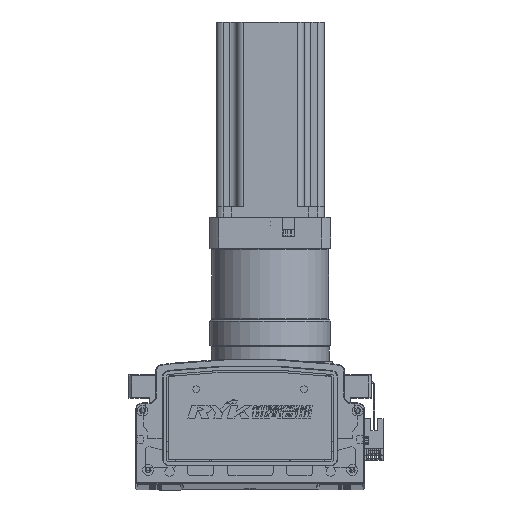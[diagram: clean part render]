
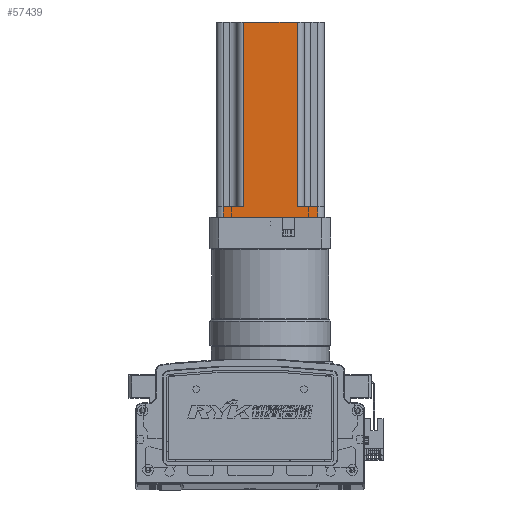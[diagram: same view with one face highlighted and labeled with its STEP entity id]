
A CAD part, top view. The second image highlights one B-rep face of the part: STEP entity #57439.
In plain terms, the highlighted planar face has unit normal (0, 0, 1) as drawn and (0, -1, 0) by its records, which use the part's own axes.
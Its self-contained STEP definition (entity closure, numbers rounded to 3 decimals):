
#1565 = PLANE ( 'NONE',  #2499 ) ;
#1586 = DIRECTION ( 'NONE',  ( -1., 0., 0. ) ) ;
#1599 = CARTESIAN_POINT ( 'NONE',  ( -87.587, -40.37, 145. ) ) ;
#1605 = DIRECTION ( 'NONE',  ( 0., 1., 0. ) ) ;
#2499 = AXIS2_PLACEMENT_3D ( 'NONE', #1599, #1605, #1586 ) ;
#9490 = LINE ( 'NONE', #22200, #9514 ) ;
#9514 = VECTOR ( 'NONE', #22214, 1000. ) ;
#9527 = LINE ( 'NONE', #22289, #9530 ) ;
#9530 = VECTOR ( 'NONE', #22264, 1000. ) ;
#9658 = VECTOR ( 'NONE', #22529, 1000. ) ;
#9666 = VECTOR ( 'NONE', #22626, 1000. ) ;
#9671 = LINE ( 'NONE', #22648, #9714 ) ;
#9673 = LINE ( 'NONE', #22619, #9666 ) ;
#9713 = LINE ( 'NONE', #22512, #9658 ) ;
#9714 = VECTOR ( 'NONE', #22656, 1000. ) ;
#9723 = LINE ( 'NONE', #22787, #9768 ) ;
#9749 = VECTOR ( 'NONE', #22906, 1000. ) ;
#9761 = LINE ( 'NONE', #22934, #9783 ) ;
#9766 = LINE ( 'NONE', #22871, #9749 ) ;
#9768 = VECTOR ( 'NONE', #22806, 1000. ) ;
#9783 = VECTOR ( 'NONE', #22944, 1000. ) ;
#22200 = CARTESIAN_POINT ( 'NONE',  ( -87.587, -40.37, 145. ) ) ;
#22214 = DIRECTION ( 'NONE',  ( 1., 0., 0. ) ) ;
#22264 = DIRECTION ( 'NONE',  ( 0., 0., 1. ) ) ;
#22289 = CARTESIAN_POINT ( 'NONE',  ( -12.587, -40.37, 145. ) ) ;
#22512 = CARTESIAN_POINT ( 'NONE',  ( -82.587, -40.37, 145. ) ) ;
#22529 = DIRECTION ( 'NONE',  ( 0., 0., -1. ) ) ;
#22619 = CARTESIAN_POINT ( 'NONE',  ( -67.587, -40.37, 145. ) ) ;
#22626 = DIRECTION ( 'NONE',  ( 0., 0., -1. ) ) ;
#22648 = CARTESIAN_POINT ( 'NONE',  ( -87.587, -40.37, 0. ) ) ;
#22656 = DIRECTION ( 'NONE',  ( 1., 0., 0. ) ) ;
#22787 = CARTESIAN_POINT ( 'NONE',  ( -27.587, -40.37, 145. ) ) ;
#22806 = DIRECTION ( 'NONE',  ( 0., 0., 1. ) ) ;
#22871 = CARTESIAN_POINT ( 'NONE',  ( -87.587, -40.37, 8. ) ) ;
#22906 = DIRECTION ( 'NONE',  ( 1., 0., 0. ) ) ;
#22934 = CARTESIAN_POINT ( 'NONE',  ( -7.587, -40.37, 8. ) ) ;
#22944 = DIRECTION ( 'NONE',  ( 1., 0., 0. ) ) ;
#43102 = EDGE_CURVE ( 'NONE', #77465, #77458, #9490, .T. ) ;
#43219 = EDGE_CURVE ( 'NONE', #77364, #77445, #9527, .T. ) ;
#43410 = EDGE_CURVE ( 'NONE', #77379, #77391, #9713, .T. ) ;
#43423 = EDGE_CURVE ( 'NONE', #77391, #77364, #9671, .T. ) ;
#43443 = EDGE_CURVE ( 'NONE', #77465, #77452, #9673, .T. ) ;
#43529 = EDGE_CURVE ( 'NONE', #77430, #77458, #9723, .T. ) ;
#43574 = EDGE_CURVE ( 'NONE', #77379, #77452, #9766, .T. ) ;
#43639 = EDGE_CURVE ( 'NONE', #77430, #77445, #9761, .T. ) ;
#45175 = ORIENTED_EDGE ( 'NONE', *, *, #43423, .T. ) ;
#45203 = ORIENTED_EDGE ( 'NONE', *, *, #43443, .T. ) ;
#45213 = ORIENTED_EDGE ( 'NONE', *, *, #43410, .T. ) ;
#45223 = ORIENTED_EDGE ( 'NONE', *, *, #43574, .F. ) ;
#45253 = ORIENTED_EDGE ( 'NONE', *, *, #43219, .T. ) ;
#45265 = ORIENTED_EDGE ( 'NONE', *, *, #43529, .T. ) ;
#45277 = ORIENTED_EDGE ( 'NONE', *, *, #43102, .F. ) ;
#45285 = ORIENTED_EDGE ( 'NONE', *, *, #43639, .F. ) ;
#46891 = EDGE_LOOP ( 'NONE', ( #45223, #45213, #45175, #45253, #45285, #45265, #45277, #45203 ) ) ;
#53623 = CARTESIAN_POINT ( 'NONE',  ( -12.587, -40.37, 0. ) ) ;
#53660 = CARTESIAN_POINT ( 'NONE',  ( -27.587, -40.37, 8. ) ) ;
#53680 = CARTESIAN_POINT ( 'NONE',  ( -82.587, -40.37, 0. ) ) ;
#53692 = CARTESIAN_POINT ( 'NONE',  ( -82.587, -40.37, 8. ) ) ;
#53701 = CARTESIAN_POINT ( 'NONE',  ( -12.587, -40.37, 8. ) ) ;
#53703 = CARTESIAN_POINT ( 'NONE',  ( -67.587, -40.37, 145. ) ) ;
#53755 = CARTESIAN_POINT ( 'NONE',  ( -67.587, -40.37, 8. ) ) ;
#53756 = CARTESIAN_POINT ( 'NONE',  ( -27.587, -40.37, 145. ) ) ;
#57439 = ADVANCED_FACE ( 'NONE', ( #64255 ), #1565, .F. ) ;
#64255 = FACE_OUTER_BOUND ( 'NONE', #46891, .T. ) ;
#77364 = VERTEX_POINT ( 'NONE', #53623 ) ;
#77379 = VERTEX_POINT ( 'NONE', #53692 ) ;
#77391 = VERTEX_POINT ( 'NONE', #53680 ) ;
#77430 = VERTEX_POINT ( 'NONE', #53660 ) ;
#77445 = VERTEX_POINT ( 'NONE', #53701 ) ;
#77452 = VERTEX_POINT ( 'NONE', #53755 ) ;
#77458 = VERTEX_POINT ( 'NONE', #53756 ) ;
#77465 = VERTEX_POINT ( 'NONE', #53703 ) ;
